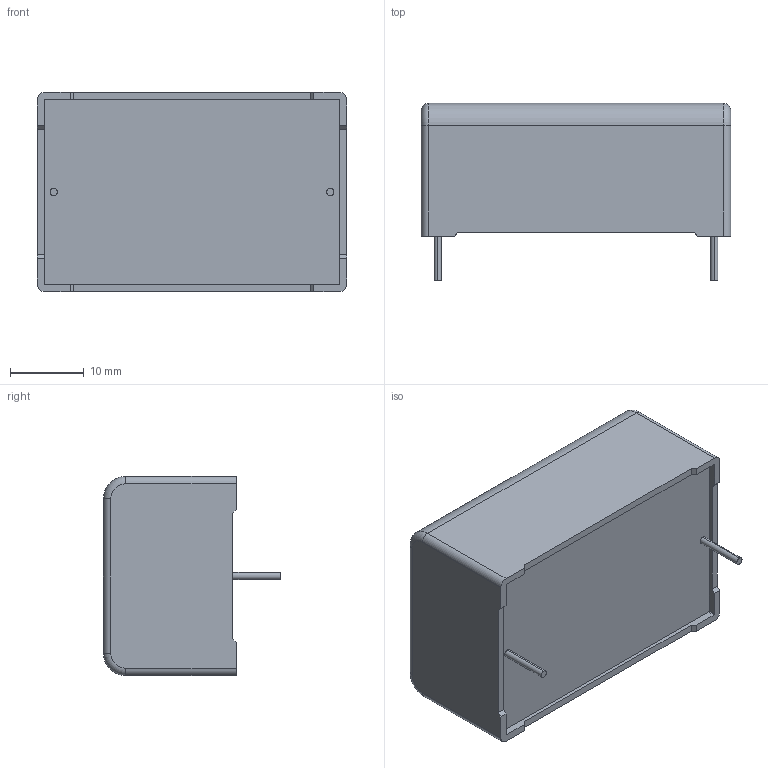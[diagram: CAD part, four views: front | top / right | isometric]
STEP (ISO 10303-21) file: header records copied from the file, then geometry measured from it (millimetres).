
FILE_DESCRIPTION (( 'STEP AP203' ), '1' );
FILE_NAME ('DC_Link_27x18x42_2pins.step', '2017-04-03T16:00:01', ( 'work' ), ( 'Hewlett-Packard Company' ), 'SwSTEP 2.0', 'SolidWorks 2017', '' );
FILE_SCHEMA (( 'CONFIG_CONTROL_DESIGN' ));
Length unit declared in the file: millimetre
Products named in the file (1): DC_Link_27x18x42_2pins
Bounding box: 42 x 24 x 27 mm (x, y, z)
Volume: 19185.1 mm3; surface area: 4658.5 mm2
Topology: 1 solids, 1 shells, 116 faces, 307 edges, 202 vertices
Faces by surface type: plane 80, cylinder 16, bspline 16, torus 4
Entity records: 4332 total; most frequent: CARTESIAN_POINT 1450, ORIENTED_EDGE 614, DIRECTION 513, EDGE_CURVE 307, VECTOR 239, LINE 239, VERTEX_POINT 202, AXIS2_PLACEMENT_3D 137
